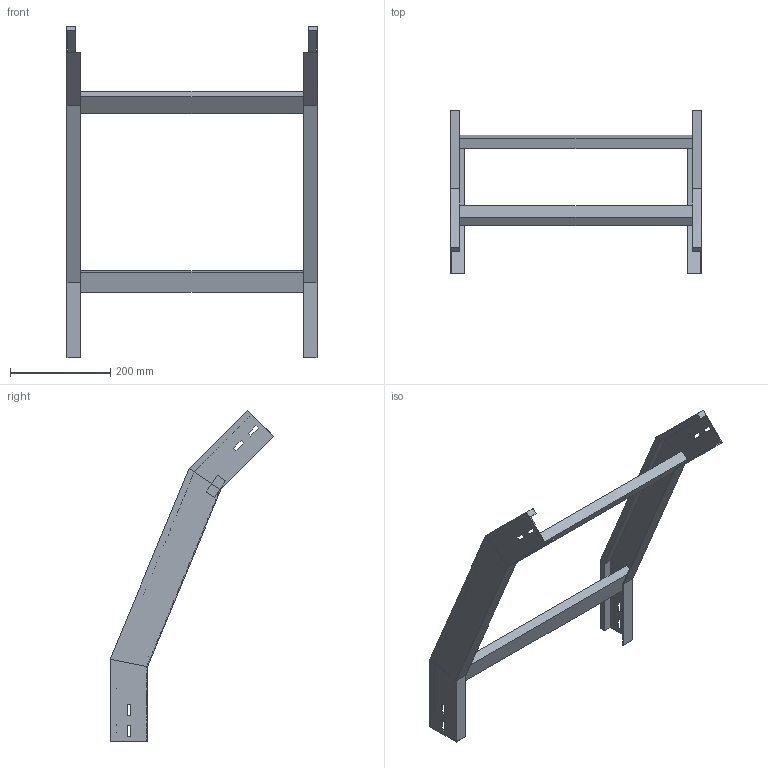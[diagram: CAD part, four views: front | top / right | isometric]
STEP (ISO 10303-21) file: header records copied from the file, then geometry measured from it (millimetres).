
FILE_DESCRIPTION (( 'STEP AP214' ), '1' );
FILE_NAME ('34B5C500.step', '2025-02-21T14:54:27', ( '' ), ( '' ), 'SwSTEP 2.0', 'SolidWorks 2023', '' );
FILE_SCHEMA (( 'AUTOMOTIVE_DESIGN' ));
Length unit declared in the file: millimetre
Products named in the file (3): LONGH.DISCESA_45°_H75_R500; 34B5C500; TRAVERSINO_500
Assembly tree (5 placements, depth 2):
  34B5C500
    LONGH.DISCESA_45°_H75_R500  x2
    TRAVERSINO_500  x3
Bounding box: 500 x 327.63 x 662.94 mm (x, y, z)
Volume: 1768400.1 mm3; surface area: 520098.9 mm2
Topology: 5 solids, 5 shells, 102 faces, 244 edges, 152 vertices
Faces by surface type: plane 102
Entity records: 1480 total; most frequent: CARTESIAN_POINT 244, ORIENTED_EDGE 232, DIRECTION 228, LINE 116, EDGE_CURVE 116, VECTOR 116, VERTEX_POINT 72, AXIS2_PLACEMENT_3D 56
